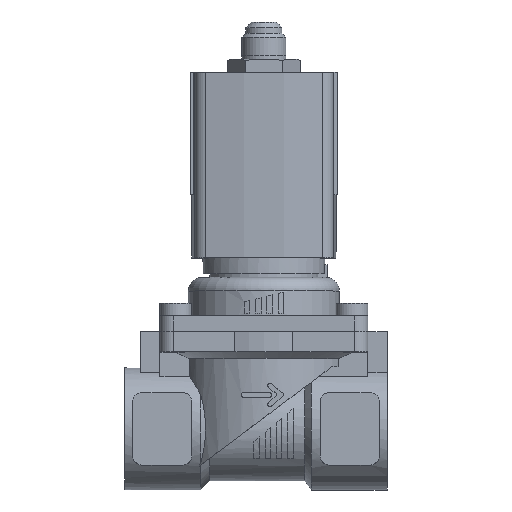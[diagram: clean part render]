
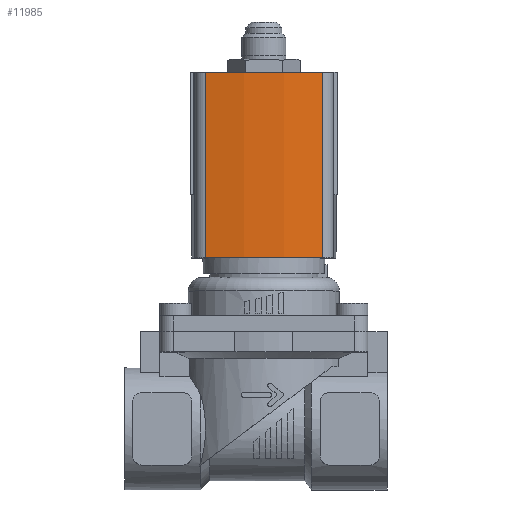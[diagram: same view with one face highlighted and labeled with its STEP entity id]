
A CAD part, top view. The second image highlights one B-rep face of the part: STEP entity #11985.
In plain terms, the highlighted cylindrical face has radius 60 mm (diameter 120 mm), a partial arc.
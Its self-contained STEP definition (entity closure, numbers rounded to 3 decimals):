
#1490=LINE('',#18359,#2498);
#1491=LINE('',#18363,#2499);
#2498=VECTOR('',#15204,1000.);
#2499=VECTOR('',#15209,1000.);
#4677=ORIENTED_EDGE('',*,*,#6615,.T.);
#4678=ORIENTED_EDGE('',*,*,#6616,.F.);
#4679=ORIENTED_EDGE('',*,*,#5901,.F.);
#4680=ORIENTED_EDGE('',*,*,#6614,.T.);
#5901=EDGE_CURVE('',#7103,#7104,#7823,.T.);
#6614=EDGE_CURVE('',#7103,#7609,#1490,.T.);
#6615=EDGE_CURVE('',#7609,#7610,#7917,.T.);
#6616=EDGE_CURVE('',#7104,#7610,#1491,.T.);
#7103=VERTEX_POINT('',#17013);
#7104=VERTEX_POINT('',#17015);
#7609=VERTEX_POINT('',#18358);
#7610=VERTEX_POINT('',#18362);
#7823=CIRCLE('',#12591,60.);
#7917=CIRCLE('',#12812,60.);
#8325=EDGE_LOOP('',(#4677,#4678,#4679,#4680));
#8895=FACE_BOUND('',#8325,.T.);
#9152=CYLINDRICAL_SURFACE('',#12811,60.);
#11985=ADVANCED_FACE('',(#8895),#9152,.T.);
#12591=AXIS2_PLACEMENT_3D('',#17014,#14145,#14146);
#12811=AXIS2_PLACEMENT_3D('',#18360,#15205,#15206);
#12812=AXIS2_PLACEMENT_3D('',#18361,#15207,#15208);
#14145=DIRECTION('',(0.,1.,0.));
#14146=DIRECTION('',(1.,0.,0.));
#15204=DIRECTION('',(0.,-1.,0.));
#15205=DIRECTION('',(0.,-1.,0.));
#15206=DIRECTION('',(0.,0.,-1.));
#15207=DIRECTION('',(0.,1.,0.));
#15208=DIRECTION('',(1.,0.,0.));
#15209=DIRECTION('',(0.,-1.,0.));
#17013=CARTESIAN_POINT('',(19.078,15.,12.986));
#17014=CARTESIAN_POINT('',(-39.5,15.,0.));
#17015=CARTESIAN_POINT('',(19.078,15.,-12.986));
#18358=CARTESIAN_POINT('',(19.078,-26.,12.986));
#18359=CARTESIAN_POINT('',(19.078,15.,12.986));
#18360=CARTESIAN_POINT('',(-39.5,15.,0.));
#18361=CARTESIAN_POINT('',(-39.5,-26.,0.));
#18362=CARTESIAN_POINT('',(19.078,-26.,-12.986));
#18363=CARTESIAN_POINT('',(19.078,15.,-12.986));
